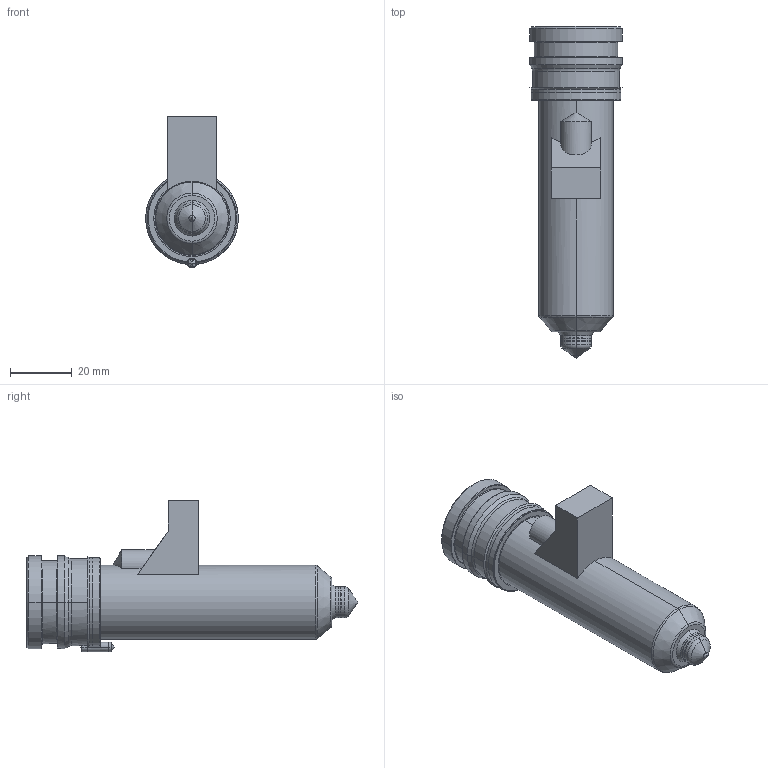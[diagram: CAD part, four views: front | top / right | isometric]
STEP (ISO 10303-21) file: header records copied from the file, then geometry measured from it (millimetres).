
FILE_DESCRIPTION((''),'2;1');
FILE_NAME('MPN-10-29-TX10-086-M','2026-02-05T12:50:54',('UPTIO'),('Thermoplay S.p.A.'),'CREO PARAMETRIC BY PTC INC, 2023494','CREO PARAMETRIC BY PTC INC, 2023494','');
FILE_SCHEMA(('CONFIG_CONTROL_DESIGN','SHAPE_APPEARANCE_LAYERS_GROUPS'));
Length unit declared in the file: millimetre
Products named in the file (1): MPN-10-29-TX10-086-M
Bounding box: 30 x 107.5 x 49 mm (x, y, z)
Volume: 34190.2 mm3; surface area: 35018.6 mm2
Topology: 3 solids, 5 shells, 541 faces, 1383 edges, 844 vertices
Faces by surface type: cylinder 177, plane 146, bspline 73, torus 67, cone 64, sphere 10, extrusion 4
Entity records: 27860 total; most frequent: CARTESIAN_POINT 12094, ORIENTED_EDGE 2748, DIRECTION 2568, EDGE_CURVE 1374, AXIS2_PLACEMENT_3D 1017, VERTEX_POINT 844, EDGE_LOOP 570, CIRCLE 552
